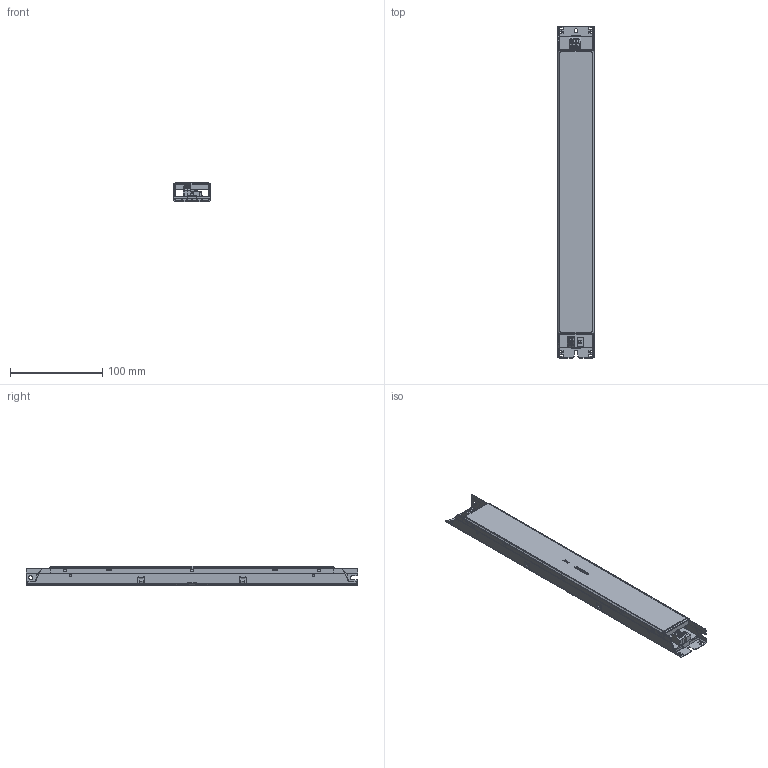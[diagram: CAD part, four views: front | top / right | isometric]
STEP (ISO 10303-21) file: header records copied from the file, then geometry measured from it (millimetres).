
FILE_DESCRIPTION(('Creo Elements/Direct Modeling STEP Export'),'2;1');
FILE_NAME('187237_ECXe1400.568_M12.stp','2025-02-05T 9:55:28',(''),(''),'Creo Elements/Direct Modeling STEP processor for AP214 (Solid Model)','Creo Elements/Direct Modeling 20.7 06-Apr-2024 (C) Parametric Technology GmbH','');
FILE_SCHEMA(('AUTOMOTIVE_DESIGN { 1 0 10303 214 1 1 1 1 }'));
Length unit declared in the file: millimetre
Products named in the file (16): GEHAEUSEDECKEL_M12.PRT; ENDKAPPE_M12_1.PRT; GEHAUESEBODEN_M12.PRT; _250-103_000-009.PRT.5; GEHAEUSE_2.PRT; DRAHT_2.PRT; DRAHT_1.PRT; GEHAEUSE.PRT; GEHAEUSE_1.PRT; STECKKLEMME_4_POLIG.ASM; 250-103_000-009_2_14_STP.ASM; LEITERKARTE_M12.PRT; 19619_PRT-16300.PRT; LEITERKARTE_M12_KOMPL.ASM; P_S_VLYESTERFOLIE_M12.PRT; 187237_ECXe1400.568_M12
Assembly tree (16 placements, depth 5):
  187237_ECXe1400.568_M12
    P_S_VLYESTERFOLIE_M12.PRT
    LEITERKARTE_M12_KOMPL.ASM
      19619_PRT-16300.PRT
      LEITERKARTE_M12.PRT
      250-103_000-009_2_14_STP.ASM
        STECKKLEMME_4_POLIG.ASM
          GEHAEUSE_1.PRT
          GEHAEUSE.PRT
          DRAHT_1.PRT
          DRAHT_2.PRT
          GEHAEUSE_2.PRT
        _250-103_000-009.PRT.5
    GEHAUESEBODEN_M12.PRT
    ENDKAPPE_M12_1.PRT  x2
    GEHAEUSEDECKEL_M12.PRT
Bounding box: 40.01 x 359 x 21.11 mm (x, y, z)
Volume: 50377.7 mm3; surface area: 198112.1 mm2
Topology: 13 solids, 13 shells, 3950 faces, 11429 edges, 7563 vertices
Faces by surface type: plane 3259, cylinder 579, bspline 78, cone 26, sphere 8
Entity records: 110156 total; most frequent: CARTESIAN_POINT 24505, ORIENTED_EDGE 18258, DIRECTION 15761, EDGE_CURVE 9129, VECTOR 7745, LINE 7745, VERTEX_POINT 6041, AXIS2_PLACEMENT_3D 4008
